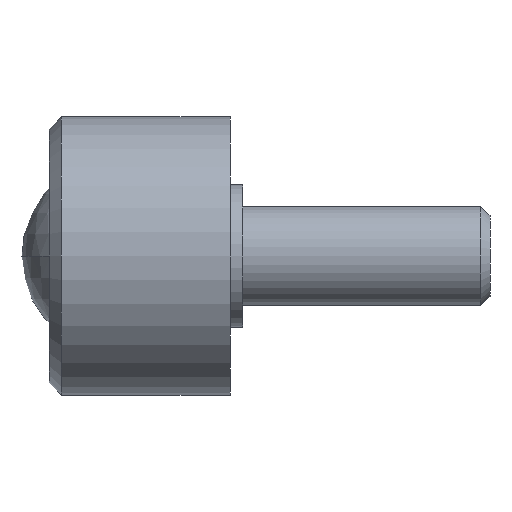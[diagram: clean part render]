
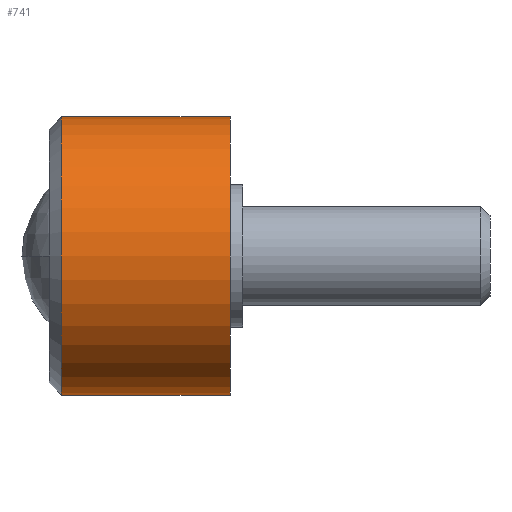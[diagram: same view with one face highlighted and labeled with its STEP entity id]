
A CAD part, left-side view. The second image highlights one B-rep face of the part: STEP entity #741.
In plain terms, the highlighted cylindrical face has radius 22.5 mm (diameter 45 mm), a partial arc.
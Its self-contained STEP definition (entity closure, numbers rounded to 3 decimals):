
#35 = FACE_OUTER_BOUND ( 'NONE', #582, .T. ) ;
#46 = VERTEX_POINT ( 'NONE', #561 ) ;
#115 = CYLINDRICAL_SURFACE ( 'NONE', #231, 22.5 ) ;
#137 = VERTEX_POINT ( 'NONE', #527 ) ;
#150 = LINE ( 'NONE', #687, #724 ) ;
#175 = ORIENTED_EDGE ( 'NONE', *, *, #270, .F. ) ;
#204 = AXIS2_PLACEMENT_3D ( 'NONE', #492, #673, #431 ) ;
#208 = DIRECTION ( 'NONE',  ( 0., -1., 0. ) ) ;
#218 = DIRECTION ( 'NONE',  ( 0., 0., -1. ) ) ;
#231 = AXIS2_PLACEMENT_3D ( 'NONE', #293, #524, #346 ) ;
#270 = EDGE_CURVE ( 'NONE', #408, #434, #750, .T. ) ;
#285 = CIRCLE ( 'NONE', #204, 22.5 ) ;
#293 = CARTESIAN_POINT ( 'NONE',  ( 0., 0., 0. ) ) ;
#312 = EDGE_CURVE ( 'NONE', #46, #137, #150, .T. ) ;
#329 = CARTESIAN_POINT ( 'NONE',  ( 0., 27.3, 22.5 ) ) ;
#346 = DIRECTION ( 'NONE',  ( 0., 0., -1. ) ) ;
#401 = CARTESIAN_POINT ( 'NONE',  ( 0., 0., 22.5 ) ) ;
#408 = VERTEX_POINT ( 'NONE', #329 ) ;
#414 = VECTOR ( 'NONE', #513, 1000. ) ;
#431 = DIRECTION ( 'NONE',  ( 0., 0., 1. ) ) ;
#434 = VERTEX_POINT ( 'NONE', #657 ) ;
#438 = EDGE_CURVE ( 'NONE', #434, #137, #526, .T. ) ;
#475 = ORIENTED_EDGE ( 'NONE', *, *, #545, .T. ) ;
#492 = CARTESIAN_POINT ( 'NONE',  ( 0., 27.3, 0. ) ) ;
#513 = DIRECTION ( 'NONE',  ( 0., -1., 0. ) ) ;
#524 = DIRECTION ( 'NONE',  ( 0., -1., 0. ) ) ;
#526 = CIRCLE ( 'NONE', #715, 22.5 ) ;
#527 = CARTESIAN_POINT ( 'NONE',  ( 0., 0., -22.5 ) ) ;
#545 = EDGE_CURVE ( 'NONE', #408, #46, #285, .T. ) ;
#561 = CARTESIAN_POINT ( 'NONE',  ( 0., 27.3, -22.5 ) ) ;
#582 = EDGE_LOOP ( 'NONE', ( #175, #475, #766, #688 ) ) ;
#584 = CARTESIAN_POINT ( 'NONE',  ( 0., 0., 0. ) ) ;
#653 = DIRECTION ( 'NONE',  ( 0., -1., 0. ) ) ;
#657 = CARTESIAN_POINT ( 'NONE',  ( 0., 0., 22.5 ) ) ;
#673 = DIRECTION ( 'NONE',  ( 0., -1., 0. ) ) ;
#687 = CARTESIAN_POINT ( 'NONE',  ( 0., 0., -22.5 ) ) ;
#688 = ORIENTED_EDGE ( 'NONE', *, *, #438, .F. ) ;
#715 = AXIS2_PLACEMENT_3D ( 'NONE', #584, #653, #218 ) ;
#724 = VECTOR ( 'NONE', #208, 1000. ) ;
#741 = ADVANCED_FACE ( 'NONE', ( #35 ), #115, .T. ) ;
#750 = LINE ( 'NONE', #401, #414 ) ;
#766 = ORIENTED_EDGE ( 'NONE', *, *, #312, .T. ) ;
